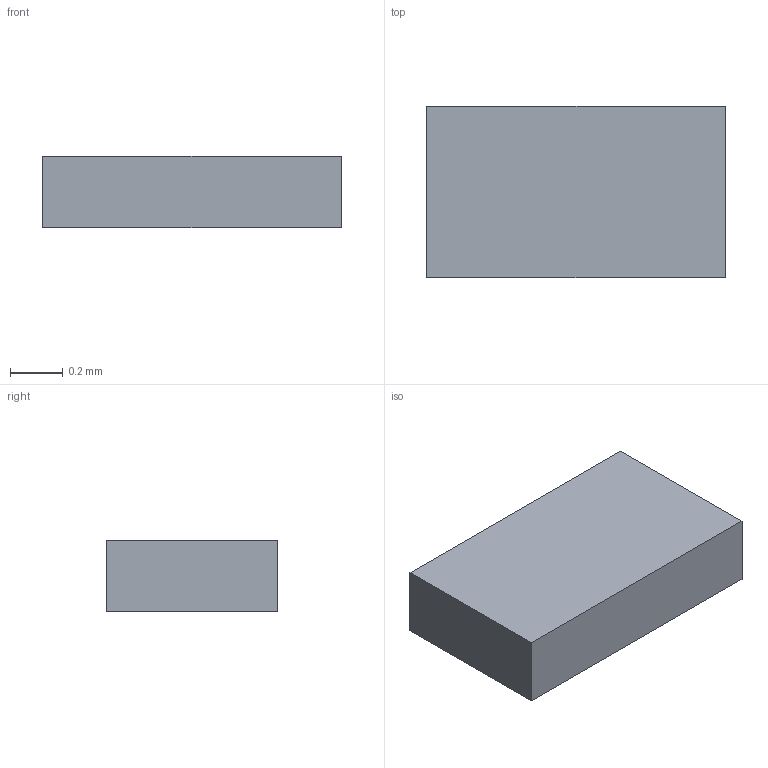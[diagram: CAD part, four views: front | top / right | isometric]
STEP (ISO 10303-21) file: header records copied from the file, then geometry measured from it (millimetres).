
FILE_DESCRIPTION (( 'STEP AP203' ), '1' );
FILE_NAME ('CSP1106.STEP', '2022-11-22T11:39:07', ( '' ), ( '' ), 'SwSTEP 2.0', 'SolidWorks 2020', '' );
FILE_SCHEMA (( 'CONFIG_CONTROL_DESIGN' ));
Length unit declared in the file: millimetre
Products named in the file (1): CSP1106
Bounding box: 1.13 x 0.65 x 0.27 mm (x, y, z)
Volume: 0.2 mm3; surface area: 2.9 mm2
Topology: 3 solids, 3 shells, 36 faces, 84 edges, 56 vertices
Faces by surface type: plane 36
Entity records: 1081 total; most frequent: CARTESIAN_POINT 177, ORIENTED_EDGE 168, DIRECTION 158, LINE 84, VECTOR 84, EDGE_CURVE 84, VERTEX_POINT 56, EDGE_LOOP 38
